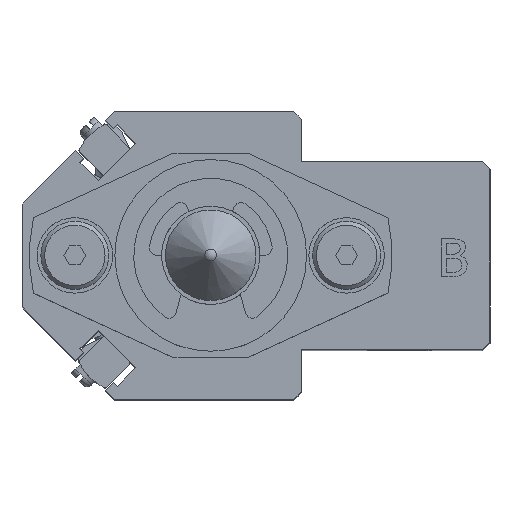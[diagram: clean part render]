
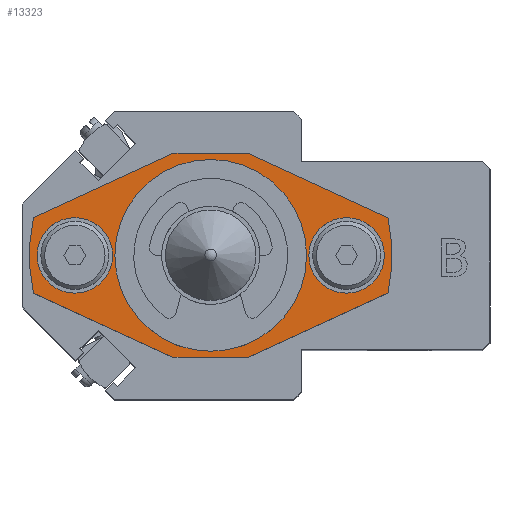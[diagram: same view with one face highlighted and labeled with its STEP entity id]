
A CAD part, top view. The second image highlights one B-rep face of the part: STEP entity #13323.
In plain terms, the highlighted planar face has unit normal (0, 0, 1).
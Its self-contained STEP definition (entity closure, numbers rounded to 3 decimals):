
#374=FACE_BOUND('',#4850,.T.);
#375=FACE_BOUND('',#4851,.T.);
#376=FACE_BOUND('',#4852,.T.);
#1555=LINE('',#21814,#2948);
#1562=LINE('',#21831,#2955);
#1563=LINE('',#21834,#2956);
#1564=LINE('',#21835,#2957);
#1565=LINE('',#21837,#2958);
#1566=LINE('',#21838,#2959);
#2948=VECTOR('',#17713,10.);
#2955=VECTOR('',#17728,10.);
#2956=VECTOR('',#17731,10.);
#2957=VECTOR('',#17732,10.);
#2958=VECTOR('',#17733,10.);
#2959=VECTOR('',#17734,10.);
#3441=CIRCLE('',#14601,10.5);
#3442=CIRCLE('',#14602,10.5);
#3449=CIRCLE('',#14613,24.);
#3451=CIRCLE('',#14616,24.);
#3454=CIRCLE('',#14623,5.);
#3455=CIRCLE('',#14624,5.);
#3456=CIRCLE('',#14625,5.);
#3457=CIRCLE('',#14626,5.);
#4142=FACE_OUTER_BOUND('',#4849,.T.);
#4849=EDGE_LOOP('',(#11162,#11163,#11164,#11165,#11166,#11167,#11168,#11169));
#4850=EDGE_LOOP('',(#11170,#11171));
#4851=EDGE_LOOP('',(#11172,#11173));
#4852=EDGE_LOOP('',(#11174,#11175));
#6056=VERTEX_POINT('',#21772);
#6057=VERTEX_POINT('',#21774);
#6065=VERTEX_POINT('',#21795);
#6066=VERTEX_POINT('',#21797);
#6069=VERTEX_POINT('',#21804);
#6070=VERTEX_POINT('',#21806);
#6072=VERTEX_POINT('',#21812);
#6078=VERTEX_POINT('',#21829);
#6079=VERTEX_POINT('',#21833);
#6080=VERTEX_POINT('',#21836);
#6081=VERTEX_POINT('',#21839);
#6082=VERTEX_POINT('',#21840);
#6083=VERTEX_POINT('',#21843);
#6084=VERTEX_POINT('',#21844);
#7815=EDGE_CURVE('',#6057,#6056,#3441,.T.);
#7816=EDGE_CURVE('',#6056,#6057,#3442,.T.);
#7825=EDGE_CURVE('',#6066,#6065,#3449,.T.);
#7829=EDGE_CURVE('',#6070,#6069,#3451,.T.);
#7833=EDGE_CURVE('',#6065,#6072,#1555,.T.);
#7842=EDGE_CURVE('',#6069,#6078,#1562,.T.);
#7843=EDGE_CURVE('',#6072,#6079,#1563,.T.);
#7844=EDGE_CURVE('',#6079,#6070,#1564,.T.);
#7845=EDGE_CURVE('',#6078,#6080,#1565,.T.);
#7846=EDGE_CURVE('',#6080,#6066,#1566,.T.);
#7847=EDGE_CURVE('',#6081,#6082,#3454,.T.);
#7848=EDGE_CURVE('',#6082,#6081,#3455,.T.);
#7849=EDGE_CURVE('',#6083,#6084,#3456,.T.);
#7850=EDGE_CURVE('',#6084,#6083,#3457,.T.);
#11162=ORIENTED_EDGE('',*,*,#7825,.T.);
#11163=ORIENTED_EDGE('',*,*,#7833,.T.);
#11164=ORIENTED_EDGE('',*,*,#7843,.T.);
#11165=ORIENTED_EDGE('',*,*,#7844,.T.);
#11166=ORIENTED_EDGE('',*,*,#7829,.T.);
#11167=ORIENTED_EDGE('',*,*,#7842,.T.);
#11168=ORIENTED_EDGE('',*,*,#7845,.T.);
#11169=ORIENTED_EDGE('',*,*,#7846,.T.);
#11170=ORIENTED_EDGE('',*,*,#7815,.T.);
#11171=ORIENTED_EDGE('',*,*,#7816,.T.);
#11172=ORIENTED_EDGE('',*,*,#7847,.T.);
#11173=ORIENTED_EDGE('',*,*,#7848,.T.);
#11174=ORIENTED_EDGE('',*,*,#7849,.T.);
#11175=ORIENTED_EDGE('',*,*,#7850,.T.);
#12519=PLANE('',#14622);
#13323=ADVANCED_FACE('',(#4142,#374,#375,#376),#12519,.T.);
#14601=AXIS2_PLACEMENT_3D('',#21775,#17672,#17673);
#14602=AXIS2_PLACEMENT_3D('',#21776,#17674,#17675);
#14613=AXIS2_PLACEMENT_3D('',#21798,#17698,#17699);
#14616=AXIS2_PLACEMENT_3D('',#21807,#17706,#17707);
#14622=AXIS2_PLACEMENT_3D('',#21832,#17729,#17730);
#14623=AXIS2_PLACEMENT_3D('',#21841,#17735,#17736);
#14624=AXIS2_PLACEMENT_3D('',#21842,#17737,#17738);
#14625=AXIS2_PLACEMENT_3D('',#21845,#17739,#17740);
#14626=AXIS2_PLACEMENT_3D('',#21846,#17741,#17742);
#17672=DIRECTION('center_axis',(0.,0.,-1.));
#17673=DIRECTION('ref_axis',(1.,0.,0.));
#17674=DIRECTION('center_axis',(0.,0.,-1.));
#17675=DIRECTION('ref_axis',(1.,0.,0.));
#17698=DIRECTION('center_axis',(0.,0.,1.));
#17699=DIRECTION('ref_axis',(0.978,-0.208,0.));
#17706=DIRECTION('center_axis',(0.,0.,1.));
#17707=DIRECTION('ref_axis',(-0.978,0.208,0.));
#17713=DIRECTION('',(0.908,-0.418,0.));
#17728=DIRECTION('',(-0.908,0.418,0.));
#17729=DIRECTION('center_axis',(0.,0.,1.));
#17730=DIRECTION('ref_axis',(1.,0.,0.));
#17731=DIRECTION('',(1.,0.,0.));
#17732=DIRECTION('',(0.908,0.418,0.));
#17733=DIRECTION('',(-1.,0.,0.));
#17734=DIRECTION('',(-0.908,-0.418,0.));
#17735=DIRECTION('center_axis',(0.,0.,-1.));
#17736=DIRECTION('ref_axis',(1.,0.,0.));
#17737=DIRECTION('center_axis',(0.,0.,-1.));
#17738=DIRECTION('ref_axis',(1.,0.,0.));
#17739=DIRECTION('center_axis',(0.,0.,-1.));
#17740=DIRECTION('ref_axis',(1.,0.,0.));
#17741=DIRECTION('center_axis',(0.,0.,-1.));
#17742=DIRECTION('ref_axis',(1.,0.,0.));
#21772=CARTESIAN_POINT('',(-10.5,0.,6.));
#21774=CARTESIAN_POINT('',(10.5,0.,6.));
#21775=CARTESIAN_POINT('Origin',(0.,0.,6.));
#21776=CARTESIAN_POINT('Origin',(0.,0.,6.));
#21795=CARTESIAN_POINT('',(-23.473,-5.001,6.));
#21797=CARTESIAN_POINT('',(-23.473,5.001,6.));
#21798=CARTESIAN_POINT('Origin',(0.,0.,6.));
#21804=CARTESIAN_POINT('',(23.473,5.001,6.));
#21806=CARTESIAN_POINT('',(23.473,-5.001,6.));
#21807=CARTESIAN_POINT('Origin',(0.,0.,6.));
#21812=CARTESIAN_POINT('',(-5.,-13.5,6.));
#21814=CARTESIAN_POINT('',(-15.7,-8.578,6.));
#21829=CARTESIAN_POINT('',(5.,13.5,6.));
#21831=CARTESIAN_POINT('',(15.7,8.578,6.));
#21832=CARTESIAN_POINT('Origin',(0.,0.,6.));
#21833=CARTESIAN_POINT('',(5.,-13.5,6.));
#21834=CARTESIAN_POINT('',(25.4,-13.5,6.));
#21835=CARTESIAN_POINT('',(15.7,-8.578,6.));
#21836=CARTESIAN_POINT('',(-5.,13.5,6.));
#21837=CARTESIAN_POINT('',(-25.4,13.5,6.));
#21838=CARTESIAN_POINT('',(-15.7,8.578,6.));
#21839=CARTESIAN_POINT('',(-13.,0.,6.));
#21840=CARTESIAN_POINT('',(-23.,0.,6.));
#21841=CARTESIAN_POINT('Origin',(-18.,0.,6.));
#21842=CARTESIAN_POINT('Origin',(-18.,0.,6.));
#21843=CARTESIAN_POINT('',(23.,0.,6.));
#21844=CARTESIAN_POINT('',(13.,0.,6.));
#21845=CARTESIAN_POINT('Origin',(18.,0.,6.));
#21846=CARTESIAN_POINT('Origin',(18.,0.,6.));
